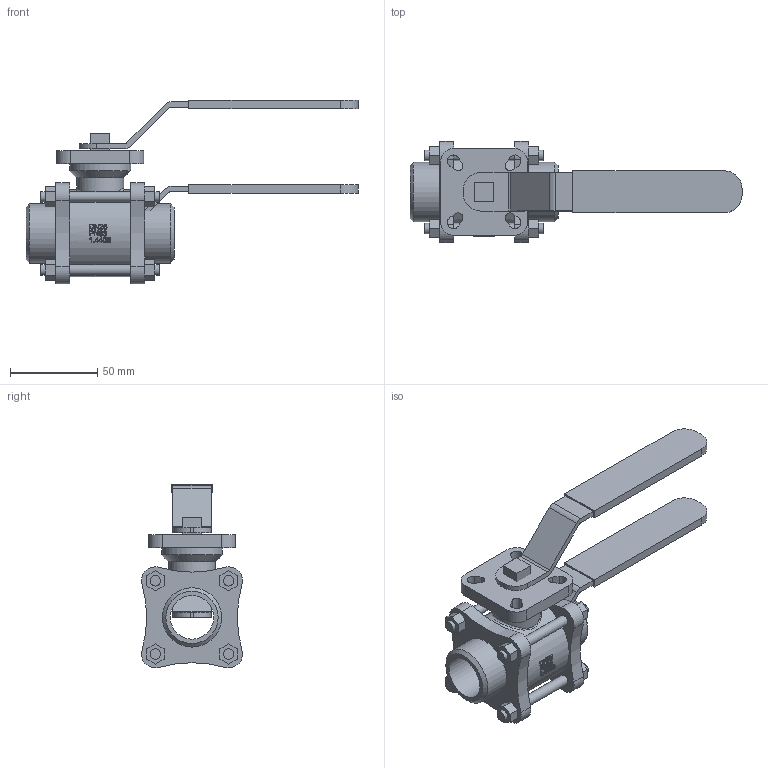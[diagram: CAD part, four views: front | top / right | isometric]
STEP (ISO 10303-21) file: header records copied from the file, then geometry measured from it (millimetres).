
FILE_DESCRIPTION( ( 'Unknown' ), '1' );
FILE_NAME( 'W:/ECCUA/ROOTSI BPS 3D vidinad/Kuulkraanid/Roostevaba kuulkraanid/Ball valve BPS 2421/Ball valve with hand lever BPS/STEP format/BPS 2421025 ball valve DN25.stp', 'Unknown', ( 'Unknown' ), ( 'Unknown' ), 'PSStep 10.1', 'Unknown', ' ' );
FILE_SCHEMA( ( 'AUTOMOTIVE_DESIGN { 1 0 10303 214 1 1 1 1 }' ) );
Length unit declared in the file: millimetre
Products named in the file (3): Assem1; Hand lever for ball valve DN25-32 BPS 2420-21; BPS 2421025 ball valve DN25
Bounding box: 190.5 x 57.98 x 105.49 mm (x, y, z)
Volume: 318696.8 mm3; surface area: 94445.6 mm2
Topology: 4 solids, 4 shells, 574 faces, 1424 edges, 950 vertices
Faces by surface type: plane 330, cylinder 154, bspline 84, cone 6
Full cylindrical faces by diameter (mm): 3 x2, 6 x24, 25 x2, 27 x2, 34 x4, 35 x2, 50 x2
Entity records: 14404 total; most frequent: CARTESIAN_POINT 5935, ORIENTED_EDGE 1356, DIRECTION 982, EDGE_CURVE 678, VERTEX_POINT 469, EDGE_LOOP 381, AXIS2_PLACEMENT_3D 359, FACE_OUTER_BOUND 312
